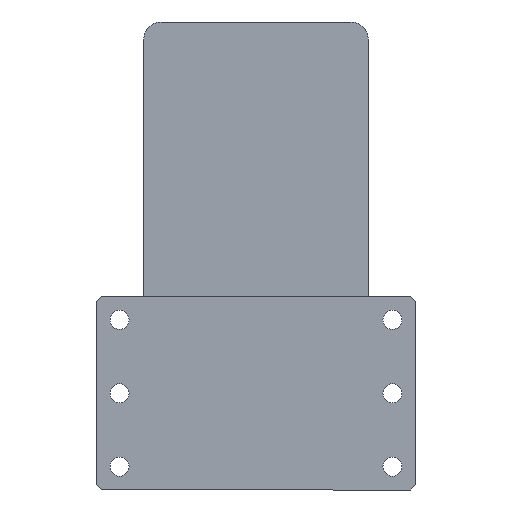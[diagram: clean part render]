
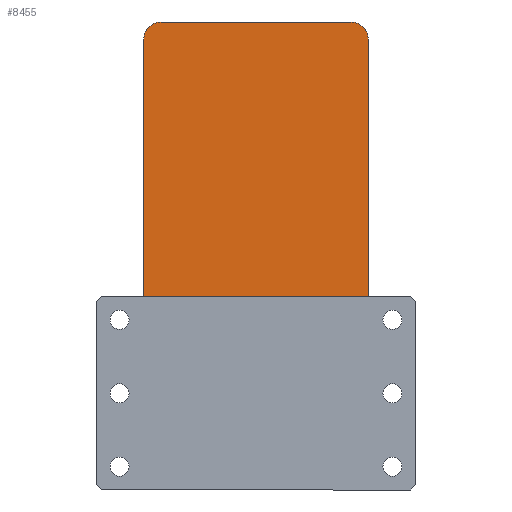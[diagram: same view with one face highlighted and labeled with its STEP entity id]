
A CAD part, left-side view. The second image highlights one B-rep face of the part: STEP entity #8455.
In plain terms, the highlighted planar face has unit normal (-1, 0, 0) as drawn and (0, 0, 1) by its records, which use the part's own axes.
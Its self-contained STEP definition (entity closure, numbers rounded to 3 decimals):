
#453 = DIRECTION ( 'NONE',  ( 1., 0., 0. ) ) ;
#514 = CARTESIAN_POINT ( 'NONE',  ( -65., -125., 105. ) ) ;
#1132 = FACE_OUTER_BOUND ( 'NONE', #6182, .T. ) ;
#1152 = VERTEX_POINT ( 'NONE', #514 ) ;
#1342 = EDGE_CURVE ( 'NONE', #5487, #13910, #13247, .T. ) ;
#1694 = DIRECTION ( 'NONE',  ( 1., 0., 0. ) ) ;
#1713 = CARTESIAN_POINT ( 'NONE',  ( -65., -135., 105. ) ) ;
#2030 = EDGE_CURVE ( 'NONE', #15021, #18677, #12478, .T. ) ;
#2748 = CARTESIAN_POINT ( 'NONE',  ( 65., -125., 105. ) ) ;
#3253 = ORIENTED_EDGE ( 'NONE', *, *, #5200, .T. ) ;
#3581 = CARTESIAN_POINT ( 'NONE',  ( 55., -125., 105. ) ) ;
#3607 = DIRECTION ( 'NONE',  ( 0., 0., 1. ) ) ;
#3623 = DIRECTION ( 'NONE',  ( 1., 0., 0. ) ) ;
#3762 = AXIS2_PLACEMENT_3D ( 'NONE', #19626, #20621, #19313 ) ;
#4209 = CARTESIAN_POINT ( 'NONE',  ( 65., 125., 105. ) ) ;
#4735 = VERTEX_POINT ( 'NONE', #20192 ) ;
#5164 = EDGE_CURVE ( 'NONE', #4735, #5350, #7064, .T. ) ;
#5200 = EDGE_CURVE ( 'NONE', #18677, #5487, #7036, .T. ) ;
#5350 = VERTEX_POINT ( 'NONE', #5804 ) ;
#5487 = VERTEX_POINT ( 'NONE', #2748 ) ;
#5804 = CARTESIAN_POINT ( 'NONE',  ( -65., 125., 105. ) ) ;
#5820 = ORIENTED_EDGE ( 'NONE', *, *, #20513, .T. ) ;
#6182 = EDGE_LOOP ( 'NONE', ( #14802, #3253, #17014, #19940, #5820, #17338, #10492, #8047 ) ) ;
#7036 = CIRCLE ( 'NONE', #7326, 10. ) ;
#7043 = VERTEX_POINT ( 'NONE', #10665 ) ;
#7064 = CIRCLE ( 'NONE', #3762, 10. ) ;
#7326 = AXIS2_PLACEMENT_3D ( 'NONE', #3581, #3607, #3623 ) ;
#7824 = AXIS2_PLACEMENT_3D ( 'NONE', #19676, #10839, #453 ) ;
#8047 = ORIENTED_EDGE ( 'NONE', *, *, #10381, .T. ) ;
#8455 = ADVANCED_FACE ( 'NONE', ( #1132 ), #11566, .T. ) ;
#9320 = CIRCLE ( 'NONE', #19543, 10. ) ;
#9403 = VECTOR ( 'NONE', #9427, 1000. ) ;
#9427 = DIRECTION ( 'NONE',  ( -1., 0., 0. ) ) ;
#9898 = LINE ( 'NONE', #18387, #9403 ) ;
#10372 = DIRECTION ( 'NONE',  ( 1., 0., 0. ) ) ;
#10381 = EDGE_CURVE ( 'NONE', #1152, #15021, #9320, .T. ) ;
#10400 = CIRCLE ( 'NONE', #7824, 10. ) ;
#10492 = ORIENTED_EDGE ( 'NONE', *, *, #11191, .T. ) ;
#10665 = CARTESIAN_POINT ( 'NONE',  ( 55., 135., 105. ) ) ;
#10839 = DIRECTION ( 'NONE',  ( 0., 0., 1. ) ) ;
#11191 = EDGE_CURVE ( 'NONE', #5350, #1152, #14695, .T. ) ;
#11235 = DIRECTION ( 'NONE',  ( 0., 0., 1. ) ) ;
#11566 = PLANE ( 'NONE',  #18133 ) ;
#11904 = CARTESIAN_POINT ( 'NONE',  ( -65., 135., 105. ) ) ;
#12323 = VECTOR ( 'NONE', #1694, 1000. ) ;
#12478 = LINE ( 'NONE', #1713, #12323 ) ;
#12964 = DIRECTION ( 'NONE',  ( 0., -1., 0. ) ) ;
#12996 = CARTESIAN_POINT ( 'NONE',  ( 0., 0., 105. ) ) ;
#13247 = LINE ( 'NONE', #14223, #13290 ) ;
#13290 = VECTOR ( 'NONE', #14193, 1000. ) ;
#13910 = VERTEX_POINT ( 'NONE', #4209 ) ;
#13995 = VECTOR ( 'NONE', #12964, 1000. ) ;
#14193 = DIRECTION ( 'NONE',  ( 0., 1., 0. ) ) ;
#14223 = CARTESIAN_POINT ( 'NONE',  ( 65., 135., 105. ) ) ;
#14695 = LINE ( 'NONE', #11904, #13995 ) ;
#14802 = ORIENTED_EDGE ( 'NONE', *, *, #2030, .T. ) ;
#15021 = VERTEX_POINT ( 'NONE', #19436 ) ;
#17014 = ORIENTED_EDGE ( 'NONE', *, *, #1342, .T. ) ;
#17338 = ORIENTED_EDGE ( 'NONE', *, *, #5164, .T. ) ;
#17834 = DIRECTION ( 'NONE',  ( 1., 0., 0. ) ) ;
#18013 = DIRECTION ( 'NONE',  ( 0., 0., 1. ) ) ;
#18133 = AXIS2_PLACEMENT_3D ( 'NONE', #12996, #11235, #10372 ) ;
#18184 = CARTESIAN_POINT ( 'NONE',  ( -55., -125., 105. ) ) ;
#18387 = CARTESIAN_POINT ( 'NONE',  ( -65., 135., 105. ) ) ;
#18677 = VERTEX_POINT ( 'NONE', #19496 ) ;
#19313 = DIRECTION ( 'NONE',  ( 1., 0., 0. ) ) ;
#19436 = CARTESIAN_POINT ( 'NONE',  ( -55., -135., 105. ) ) ;
#19496 = CARTESIAN_POINT ( 'NONE',  ( 55., -135., 105. ) ) ;
#19543 = AXIS2_PLACEMENT_3D ( 'NONE', #18184, #18013, #17834 ) ;
#19626 = CARTESIAN_POINT ( 'NONE',  ( -55., 125., 105. ) ) ;
#19676 = CARTESIAN_POINT ( 'NONE',  ( 55., 125., 105. ) ) ;
#19940 = ORIENTED_EDGE ( 'NONE', *, *, #20467, .T. ) ;
#20192 = CARTESIAN_POINT ( 'NONE',  ( -55., 135., 105. ) ) ;
#20467 = EDGE_CURVE ( 'NONE', #13910, #7043, #10400, .T. ) ;
#20513 = EDGE_CURVE ( 'NONE', #7043, #4735, #9898, .T. ) ;
#20621 = DIRECTION ( 'NONE',  ( 0., 0., 1. ) ) ;
